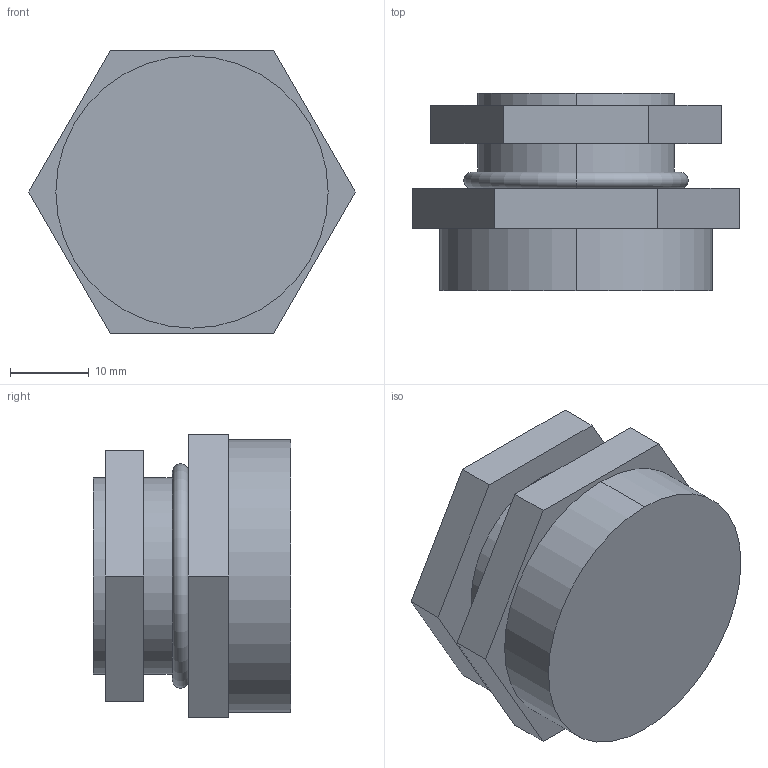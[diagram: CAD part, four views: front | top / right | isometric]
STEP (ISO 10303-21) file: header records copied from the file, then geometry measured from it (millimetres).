
FILE_DESCRIPTION (( 'STEP AP203' ), '1' );
FILE_NAME ('exebdm25ss6.STEP', '2013-11-26T14:34:07', ( 'User' ), ( 'Pentair Inc' ), 'SwSTEP 2.0', 'SolidWorks 2010', '' );
FILE_SCHEMA (( 'CONFIG_CONTROL_DESIGN' ));
Length unit declared in the file: inch
Products named in the file (1): exebdm25ss6
Bounding box: 41.43 x 25.02 x 35.88 mm (x, y, z)
Volume: 19550.8 mm3; surface area: 6227.2 mm2
Topology: 1 solids, 1 shells, 29 faces, 64 edges, 42 vertices
Faces by surface type: plane 19, cylinder 8, torus 2
Entity records: 881 total; most frequent: DIRECTION 144, CARTESIAN_POINT 136, ORIENTED_EDGE 128, EDGE_CURVE 64, AXIS2_PLACEMENT_3D 50, VECTOR 44, LINE 44, VERTEX_POINT 42
